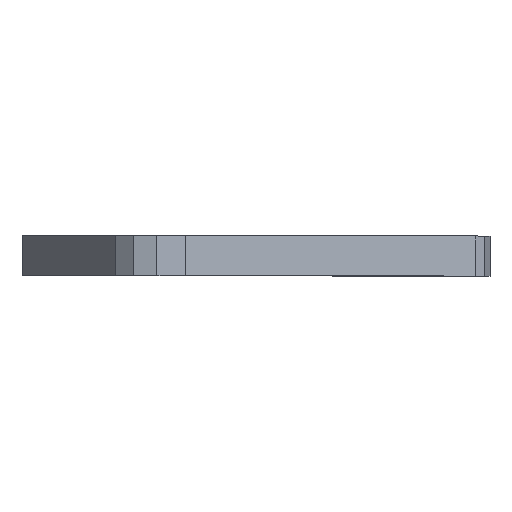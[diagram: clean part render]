
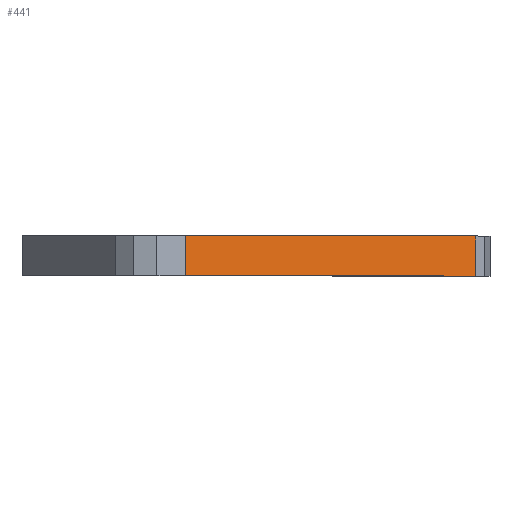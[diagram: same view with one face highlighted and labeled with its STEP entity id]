
A CAD part, top view. The second image highlights one B-rep face of the part: STEP entity #441.
In plain terms, the highlighted planar face has unit normal (0.574, 0, 0.819).
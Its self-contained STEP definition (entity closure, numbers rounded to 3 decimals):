
#72 = PLANE('',#73);
#73 = AXIS2_PLACEMENT_3D('',#74,#75,#76);
#74 = CARTESIAN_POINT('',(223.318,2.,160.074));
#75 = DIRECTION('',(-0.,-1.,-0.));
#76 = DIRECTION('',(0.,0.,-1.));
#126 = PLANE('',#127);
#127 = AXIS2_PLACEMENT_3D('',#128,#129,#130);
#128 = CARTESIAN_POINT('',(223.318,14.,160.074));
#129 = DIRECTION('',(-0.,-1.,-0.));
#130 = DIRECTION('',(0.,0.,-1.));
#333 = PLANE('',#334);
#334 = AXIS2_PLACEMENT_3D('',#335,#336,#337);
#335 = CARTESIAN_POINT('',(283.24,14.,144.94));
#336 = DIRECTION('',(-0.722,-0.,-0.692));
#337 = DIRECTION('',(-0.692,0.,0.722));
#371 = VERTEX_POINT('',#372);
#372 = CARTESIAN_POINT('',(280.54,2.,147.76));
#393 = EDGE_CURVE('',#394,#371,#396,.T.);
#394 = VERTEX_POINT('',#395);
#395 = CARTESIAN_POINT('',(280.54,14.,147.76));
#396 = SURFACE_CURVE('',#397,(#401,#408),.PCURVE_S1.);
#397 = LINE('',#398,#399);
#398 = CARTESIAN_POINT('',(280.54,14.,147.76));
#399 = VECTOR('',#400,1.);
#400 = DIRECTION('',(0.,-1.,0.));
#401 = PCURVE('',#333,#402);
#402 = DEFINITIONAL_REPRESENTATION('',(#403),#407);
#403 = LINE('',#404,#405);
#404 = CARTESIAN_POINT('',(3.904,0.));
#405 = VECTOR('',#406,1.);
#406 = DIRECTION('',(0.,-1.));
#407 = ( GEOMETRIC_REPRESENTATION_CONTEXT(2) 
PARAMETRIC_REPRESENTATION_CONTEXT() REPRESENTATION_CONTEXT('2D SPACE',''
  ) );
#408 = PCURVE('',#409,#414);
#409 = PLANE('',#410);
#410 = AXIS2_PLACEMENT_3D('',#411,#412,#413);
#411 = CARTESIAN_POINT('',(280.54,14.,147.76));
#412 = DIRECTION('',(-0.574,-0.,-0.819));
#413 = DIRECTION('',(-0.819,0.,0.574));
#414 = DEFINITIONAL_REPRESENTATION('',(#415),#419);
#415 = LINE('',#416,#417);
#416 = CARTESIAN_POINT('',(0.,0.));
#417 = VECTOR('',#418,1.);
#418 = DIRECTION('',(0.,-1.));
#419 = ( GEOMETRIC_REPRESENTATION_CONTEXT(2) 
PARAMETRIC_REPRESENTATION_CONTEXT() REPRESENTATION_CONTEXT('2D SPACE',''
  ) );
#441 = ADVANCED_FACE('',(#442),#409,.F.);
#442 = FACE_BOUND('',#443,.F.);
#443 = EDGE_LOOP('',(#444,#445,#468,#496));
#444 = ORIENTED_EDGE('',*,*,#393,.T.);
#445 = ORIENTED_EDGE('',*,*,#446,.T.);
#446 = EDGE_CURVE('',#371,#447,#449,.T.);
#447 = VERTEX_POINT('',#448);
#448 = CARTESIAN_POINT('',(193.48,2.,208.72));
#449 = SURFACE_CURVE('',#450,(#454,#461),.PCURVE_S1.);
#450 = LINE('',#451,#452);
#451 = CARTESIAN_POINT('',(280.54,2.,147.76));
#452 = VECTOR('',#453,1.);
#453 = DIRECTION('',(-0.819,0.,0.574));
#454 = PCURVE('',#409,#455);
#455 = DEFINITIONAL_REPRESENTATION('',(#456),#460);
#456 = LINE('',#457,#458);
#457 = CARTESIAN_POINT('',(0.,-12.));
#458 = VECTOR('',#459,1.);
#459 = DIRECTION('',(1.,0.));
#460 = ( GEOMETRIC_REPRESENTATION_CONTEXT(2) 
PARAMETRIC_REPRESENTATION_CONTEXT() REPRESENTATION_CONTEXT('2D SPACE',''
  ) );
#461 = PCURVE('',#72,#462);
#462 = DEFINITIONAL_REPRESENTATION('',(#463),#467);
#463 = LINE('',#464,#465);
#464 = CARTESIAN_POINT('',(12.314,57.222));
#465 = VECTOR('',#466,1.);
#466 = DIRECTION('',(-0.574,-0.819));
#467 = ( GEOMETRIC_REPRESENTATION_CONTEXT(2) 
PARAMETRIC_REPRESENTATION_CONTEXT() REPRESENTATION_CONTEXT('2D SPACE',''
  ) );
#468 = ORIENTED_EDGE('',*,*,#469,.F.);
#469 = EDGE_CURVE('',#470,#447,#472,.T.);
#470 = VERTEX_POINT('',#471);
#471 = CARTESIAN_POINT('',(193.48,14.,208.72));
#472 = SURFACE_CURVE('',#473,(#477,#484),.PCURVE_S1.);
#473 = LINE('',#474,#475);
#474 = CARTESIAN_POINT('',(193.48,14.,208.72));
#475 = VECTOR('',#476,1.);
#476 = DIRECTION('',(0.,-1.,0.));
#477 = PCURVE('',#409,#478);
#478 = DEFINITIONAL_REPRESENTATION('',(#479),#483);
#479 = LINE('',#480,#481);
#480 = CARTESIAN_POINT('',(106.281,0.));
#481 = VECTOR('',#482,1.);
#482 = DIRECTION('',(0.,-1.));
#483 = ( GEOMETRIC_REPRESENTATION_CONTEXT(2) 
PARAMETRIC_REPRESENTATION_CONTEXT() REPRESENTATION_CONTEXT('2D SPACE',''
  ) );
#484 = PCURVE('',#485,#490);
#485 = PLANE('',#486);
#486 = AXIS2_PLACEMENT_3D('',#487,#488,#489);
#487 = CARTESIAN_POINT('',(193.48,14.,208.72));
#488 = DIRECTION('',(-0.595,-0.,-0.804));
#489 = DIRECTION('',(-0.804,0.,0.595));
#490 = DEFINITIONAL_REPRESENTATION('',(#491),#495);
#491 = LINE('',#492,#493);
#492 = CARTESIAN_POINT('',(0.,0.));
#493 = VECTOR('',#494,1.);
#494 = DIRECTION('',(0.,-1.));
#495 = ( GEOMETRIC_REPRESENTATION_CONTEXT(2) 
PARAMETRIC_REPRESENTATION_CONTEXT() REPRESENTATION_CONTEXT('2D SPACE',''
  ) );
#496 = ORIENTED_EDGE('',*,*,#497,.F.);
#497 = EDGE_CURVE('',#394,#470,#498,.T.);
#498 = SURFACE_CURVE('',#499,(#503,#510),.PCURVE_S1.);
#499 = LINE('',#500,#501);
#500 = CARTESIAN_POINT('',(280.54,14.,147.76));
#501 = VECTOR('',#502,1.);
#502 = DIRECTION('',(-0.819,0.,0.574));
#503 = PCURVE('',#409,#504);
#504 = DEFINITIONAL_REPRESENTATION('',(#505),#509);
#505 = LINE('',#506,#507);
#506 = CARTESIAN_POINT('',(0.,0.));
#507 = VECTOR('',#508,1.);
#508 = DIRECTION('',(1.,0.));
#509 = ( GEOMETRIC_REPRESENTATION_CONTEXT(2) 
PARAMETRIC_REPRESENTATION_CONTEXT() REPRESENTATION_CONTEXT('2D SPACE',''
  ) );
#510 = PCURVE('',#126,#511);
#511 = DEFINITIONAL_REPRESENTATION('',(#512),#516);
#512 = LINE('',#513,#514);
#513 = CARTESIAN_POINT('',(12.314,57.222));
#514 = VECTOR('',#515,1.);
#515 = DIRECTION('',(-0.574,-0.819));
#516 = ( GEOMETRIC_REPRESENTATION_CONTEXT(2) 
PARAMETRIC_REPRESENTATION_CONTEXT() REPRESENTATION_CONTEXT('2D SPACE',''
  ) );
